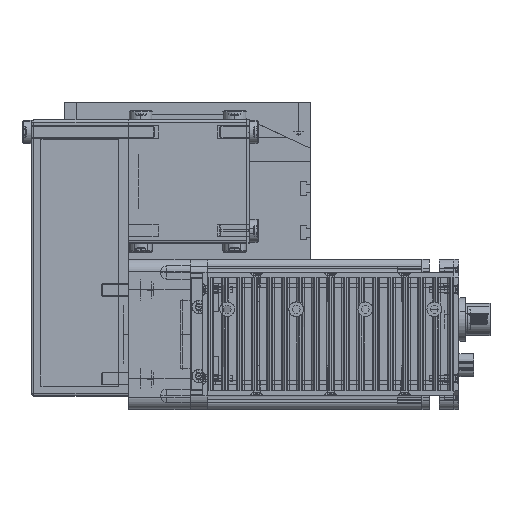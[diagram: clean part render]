
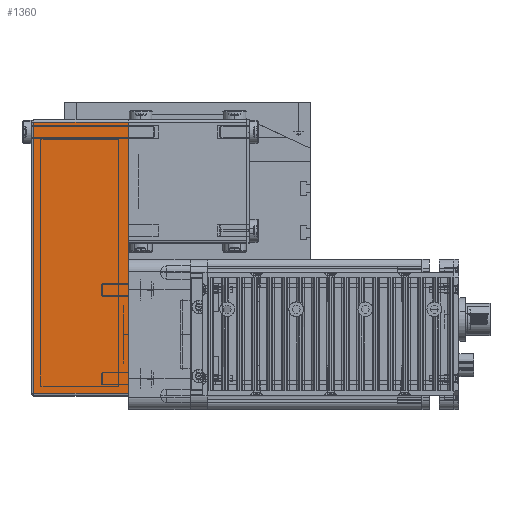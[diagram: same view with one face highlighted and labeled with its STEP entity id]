
A CAD part, top view. The second image highlights one B-rep face of the part: STEP entity #1360.
In plain terms, the highlighted planar face has unit normal (0, 0, 1) as drawn and (0, 1, 0) by its records, which use the part's own axes.
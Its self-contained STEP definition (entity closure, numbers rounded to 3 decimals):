
#988 = ORIENTED_EDGE ( 'NONE', *, *, #1038, .F. ) ;
#1034 = EDGE_LOOP ( 'NONE', ( #1258, #988, #1213, #1216 ) ) ;
#1038 = EDGE_CURVE ( 'NONE', #42488, #41844, #47008, .T. ) ;
#1213 = ORIENTED_EDGE ( 'NONE', *, *, #2145, .F. ) ;
#1216 = ORIENTED_EDGE ( 'NONE', *, *, #1260, .T. ) ;
#1258 = ORIENTED_EDGE ( 'NONE', *, *, #42113, .F. ) ;
#1260 = EDGE_CURVE ( 'NONE', #2165, #24472, #47429, .T. ) ;
#1360 = ADVANCED_FACE ( 'NONE', ( #47607 ), #47608, .F. ) ;
#2145 = EDGE_CURVE ( 'NONE', #2165, #42488, #6759, .T. ) ;
#2165 = VERTEX_POINT ( 'NONE', #6793 ) ;
#6751 = DIRECTION ( 'NONE',  ( 0., 0., 1. ) ) ;
#6752 = VECTOR ( 'NONE', #6751, 1000. ) ;
#6758 = CARTESIAN_POINT ( 'NONE',  ( 61., 25., 39.5 ) ) ;
#6759 = LINE ( 'NONE', #6758, #6752 ) ;
#6793 = CARTESIAN_POINT ( 'NONE',  ( 61., 25., 0. ) ) ;
#24472 = VERTEX_POINT ( 'NONE', #24898 ) ;
#24898 = CARTESIAN_POINT ( 'NONE',  ( -49., 25., 0. ) ) ;
#31791 = CARTESIAN_POINT ( 'NONE',  ( -49., 25., 38.5 ) ) ;
#32464 = DIRECTION ( 'NONE',  ( 0., 0., -1. ) ) ;
#32465 = VECTOR ( 'NONE', #32464, 1000. ) ;
#32466 = CARTESIAN_POINT ( 'NONE',  ( -49., 25., 39.5 ) ) ;
#32467 = LINE ( 'NONE', #32466, #32465 ) ;
#33401 = CARTESIAN_POINT ( 'NONE',  ( 61., 25., 38.5 ) ) ;
#41844 = VERTEX_POINT ( 'NONE', #31791 ) ;
#42113 = EDGE_CURVE ( 'NONE', #41844, #24472, #32467, .T. ) ;
#42488 = VERTEX_POINT ( 'NONE', #33401 ) ;
#47008 = LINE ( 'NONE', #47071, #47070 ) ;
#47069 = DIRECTION ( 'NONE',  ( -1., 0., 0. ) ) ;
#47070 = VECTOR ( 'NONE', #47069, 1000. ) ;
#47071 = CARTESIAN_POINT ( 'NONE',  ( -50., 25., 38.5 ) ) ;
#47416 = DIRECTION ( 'NONE',  ( -1., 0., 0. ) ) ;
#47417 = VECTOR ( 'NONE', #47416, 1000. ) ;
#47418 = CARTESIAN_POINT ( 'NONE',  ( -50., 25., 0. ) ) ;
#47429 = LINE ( 'NONE', #47418, #47417 ) ;
#47600 = DIRECTION ( 'NONE',  ( 0., 0., -1. ) ) ;
#47601 = DIRECTION ( 'NONE',  ( 0., -1., 0. ) ) ;
#47605 = AXIS2_PLACEMENT_3D ( 'NONE', #47611, #47601, #47600 ) ;
#47607 = FACE_OUTER_BOUND ( 'NONE', #1034, .T. ) ;
#47608 = PLANE ( 'NONE',  #47605 ) ;
#47611 = CARTESIAN_POINT ( 'NONE',  ( -50., 25., 39.5 ) ) ;
